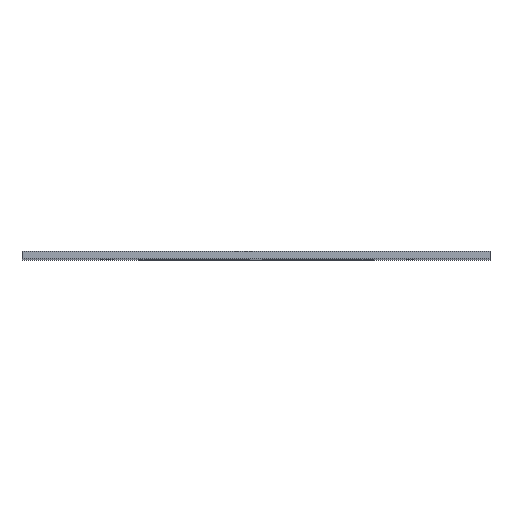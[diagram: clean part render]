
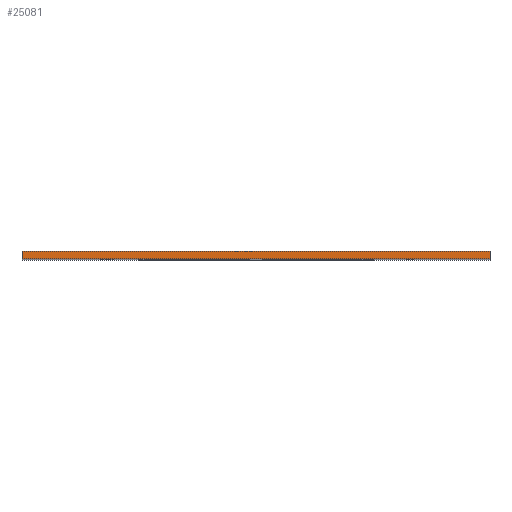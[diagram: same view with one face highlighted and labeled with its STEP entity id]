
A CAD part, top view. The second image highlights one B-rep face of the part: STEP entity #25081.
In plain terms, the highlighted planar face has unit normal (0, 0, 1).
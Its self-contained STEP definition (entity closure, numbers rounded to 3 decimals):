
#1692=FACE_OUTER_BOUND('',#2709,.T.);
#2709=EDGE_LOOP('',(#18591,#18592,#18593,#18594));
#3576=LINE('',#32724,#6834);
#3951=LINE('',#37377,#7209);
#3957=LINE('',#37388,#7215);
#3958=LINE('',#37390,#7216);
#6834=VECTOR('',#26958,10.);
#7209=VECTOR('',#27497,10.);
#7215=VECTOR('',#27507,10.);
#7216=VECTOR('',#27510,10.);
#10100=VERTEX_POINT('',#32722);
#10101=VERTEX_POINT('',#32723);
#10597=VERTEX_POINT('',#37376);
#10600=VERTEX_POINT('',#37386);
#13021=EDGE_CURVE('',#10100,#10101,#3576,.T.);
#13766=EDGE_CURVE('',#10100,#10597,#3951,.T.);
#13772=EDGE_CURVE('',#10101,#10600,#3957,.T.);
#13773=EDGE_CURVE('',#10597,#10600,#3958,.T.);
#18591=ORIENTED_EDGE('',*,*,#13021,.T.);
#18592=ORIENTED_EDGE('',*,*,#13772,.T.);
#18593=ORIENTED_EDGE('',*,*,#13773,.F.);
#18594=ORIENTED_EDGE('',*,*,#13766,.F.);
#24092=PLANE('',#25900);
#25081=ADVANCED_FACE('',(#1692),#24092,.T.);
#25900=AXIS2_PLACEMENT_3D('',#37389,#27508,#27509);
#26958=DIRECTION('',(1.,0.,0.));
#27497=DIRECTION('',(0.,1.,0.));
#27507=DIRECTION('',(0.,1.,0.));
#27508=DIRECTION('center_axis',(0.,0.,1.));
#27509=DIRECTION('ref_axis',(1.,0.,0.));
#27510=DIRECTION('',(1.,0.,0.));
#32722=CARTESIAN_POINT('',(-91.,1.,179.031));
#32723=CARTESIAN_POINT('',(34.,1.,179.031));
#32724=CARTESIAN_POINT('',(-91.,1.,179.031));
#37376=CARTESIAN_POINT('',(-91.,2.999,179.031));
#37377=CARTESIAN_POINT('',(-91.,1.,179.031));
#37386=CARTESIAN_POINT('',(34.,2.999,179.031));
#37388=CARTESIAN_POINT('',(34.,1.,179.031));
#37389=CARTESIAN_POINT('Origin',(-91.,1.,179.031));
#37390=CARTESIAN_POINT('',(-91.,2.999,179.031));
